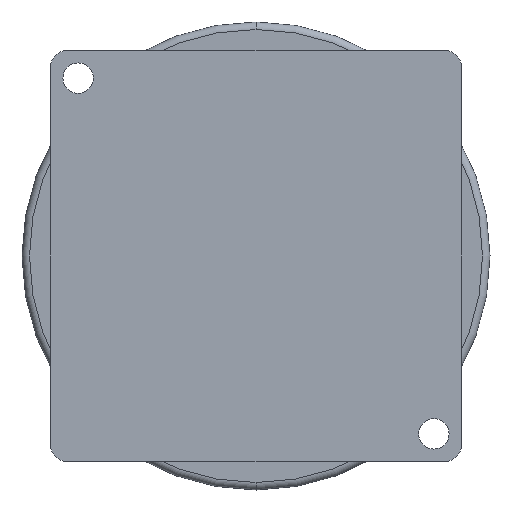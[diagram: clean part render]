
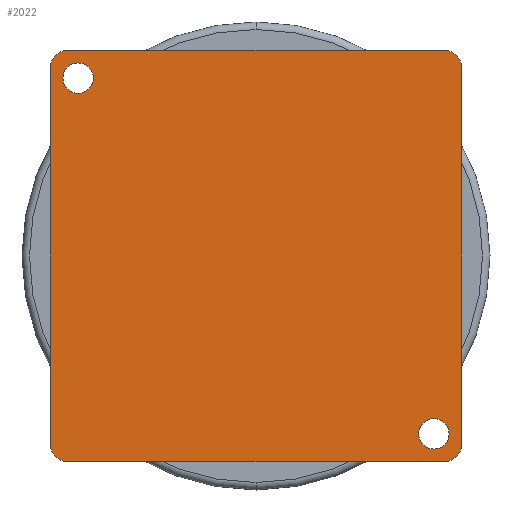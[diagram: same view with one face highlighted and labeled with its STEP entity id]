
A CAD part, front view. The second image highlights one B-rep face of the part: STEP entity #2022.
In plain terms, the highlighted planar face has unit normal (0, -1, 0).
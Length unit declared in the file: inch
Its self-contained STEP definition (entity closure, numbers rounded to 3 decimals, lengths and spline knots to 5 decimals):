
#50 = EDGE_CURVE ( 'Defeatured_0_0+Defeatured_0_17+Defeatured_0_27+Defeatured_0_28', #509, #620, #3667, .T. ) ;
#88 = DIRECTION ( 'NONE',  ( 0., 0., -1. ) ) ;
#111 = CARTESIAN_POINT ( 'NONE',  ( 2.375, -1.305, -2.57812 ) ) ;
#192 = CIRCLE ( 'NONE', #4120, 0.25 ) ;
#303 = FACE_BOUND ( 'NONE', #4639, .T. ) ;
#316 = CARTESIAN_POINT ( 'NONE',  ( 2.75, -1.305, 2.75 ) ) ;
#350 = DIRECTION ( 'NONE',  ( 0., 0., -1. ) ) ;
#381 = ORIENTED_EDGE ( 'NONE', *, *, #1233, .T. ) ;
#397 = DIRECTION ( 'NONE',  ( 0., -1., 0. ) ) ;
#408 = ORIENTED_EDGE ( 'NONE', *, *, #3091, .F. ) ;
#484 = VERTEX_POINT ( 'NONE', #929 ) ;
#499 = LINE ( 'NONE', #1270, #3635 ) ;
#509 = VERTEX_POINT ( 'NONE', #3498 ) ;
#549 = VERTEX_POINT ( 'NONE', #1338 ) ;
#582 = VERTEX_POINT ( 'NONE', #2345 ) ;
#620 = VERTEX_POINT ( 'NONE', #4373 ) ;
#629 = VECTOR ( 'NONE', #1410, 39.37008 ) ;
#633 = EDGE_CURVE ( 'Defeatured_0_9+Defeatured_0_17+Defeatured_0_29+Defeatured_0_27', #2091, #549, #3264, .T. ) ;
#705 = DIRECTION ( 'NONE',  ( 0., 0., -1. ) ) ;
#765 = DIRECTION ( 'NONE',  ( 0., 0., -1. ) ) ;
#884 = DIRECTION ( 'NONE',  ( 0., 0., -1. ) ) ;
#929 = CARTESIAN_POINT ( 'NONE',  ( 2.375, -1.305, -2.17188 ) ) ;
#992 = EDGE_CURVE ( 'Defeatured_0_17+Defeatured_0_27+Defeatured_0_0+Defeatured_0_9', #509, #549, #192, .T. ) ;
#1011 = DIRECTION ( 'NONE',  ( 0., 0., -1. ) ) ;
#1119 = EDGE_CURVE ( 'Defeatured_0_10+Defeatured_0_17+Defeatured_0_28+Defeatured_0_30', #582, #1677, #499, .T. ) ;
#1147 = CARTESIAN_POINT ( 'NONE',  ( -2.75, -1.305, -2.75 ) ) ;
#1173 = CIRCLE ( 'NONE', #2725, 0.25 ) ;
#1229 = DIRECTION ( 'NONE',  ( 0., -1., 0. ) ) ;
#1233 = EDGE_CURVE ( 'Defeatured_0_17+Defeatured_0_29+Defeatured_0_9+Defeatured_0_18', #2091, #3084, #1173, .T. ) ;
#1257 = VERTEX_POINT ( 'NONE', #111 ) ;
#1270 = CARTESIAN_POINT ( 'NONE',  ( -2.75, -1.305, 2.75 ) ) ;
#1276 = AXIS2_PLACEMENT_3D ( 'NONE', #3673, #1487, #4109 ) ;
#1281 = ORIENTED_EDGE ( 'NONE', *, *, #992, .T. ) ;
#1291 = ORIENTED_EDGE ( 'NONE', *, *, #1119, .F. ) ;
#1338 = CARTESIAN_POINT ( 'NONE',  ( 2.75, -1.305, -2.5 ) ) ;
#1342 = LINE ( 'NONE', #2861, #2126 ) ;
#1390 = DIRECTION ( 'NONE',  ( 1., 0., 0. ) ) ;
#1410 = DIRECTION ( 'NONE',  ( -1., 0., 0. ) ) ;
#1487 = DIRECTION ( 'NONE',  ( 0., -1., 0. ) ) ;
#1665 = AXIS2_PLACEMENT_3D ( 'NONE', #2690, #1229, #884 ) ;
#1677 = VERTEX_POINT ( 'NONE', #3676 ) ;
#1871 = DIRECTION ( 'NONE',  ( 0., -1., 0. ) ) ;
#1900 = DIRECTION ( 'NONE',  ( 0., 0., -1. ) ) ;
#1957 = ORIENTED_EDGE ( 'NONE', *, *, #4074, .T. ) ;
#2005 = ORIENTED_EDGE ( 'NONE', *, *, #50, .F. ) ;
#2014 = ORIENTED_EDGE ( 'NONE', *, *, #3566, .F. ) ;
#2022 = ADVANCED_FACE ( 'Defeatured_0_17', ( #303, #2558, #2938 ), #4828, .T. ) ;
#2091 = VERTEX_POINT ( 'NONE', #4150 ) ;
#2126 = VECTOR ( 'NONE', #1390, 39.37008 ) ;
#2207 = CARTESIAN_POINT ( 'NONE',  ( 0., -1.305, 0. ) ) ;
#2242 = VERTEX_POINT ( 'NONE', #2787 ) ;
#2324 = CARTESIAN_POINT ( 'NONE',  ( -2.375, -1.305, 2.375 ) ) ;
#2345 = CARTESIAN_POINT ( 'NONE',  ( -2.75, -1.305, -2.5 ) ) ;
#2363 = AXIS2_PLACEMENT_3D ( 'NONE', #3717, #1871, #765 ) ;
#2422 = EDGE_LOOP ( 'NONE', ( #2005, #1281, #4266, #381, #3755, #2835, #1291, #1957 ) ) ;
#2527 = AXIS2_PLACEMENT_3D ( 'NONE', #4101, #4822, #1900 ) ;
#2558 = FACE_BOUND ( 'NONE', #4654, .T. ) ;
#2598 = AXIS2_PLACEMENT_3D ( 'NONE', #4378, #4682, #1011 ) ;
#2690 = CARTESIAN_POINT ( 'NONE',  ( -2.5, -1.305, 2.5 ) ) ;
#2709 = AXIS2_PLACEMENT_3D ( 'NONE', #2207, #3699, #350 ) ;
#2725 = AXIS2_PLACEMENT_3D ( 'NONE', #3007, #4024, #3422 ) ;
#2787 = CARTESIAN_POINT ( 'NONE',  ( -2.375, -1.305, 2.57813 ) ) ;
#2835 = ORIENTED_EDGE ( 'NONE', *, *, #4620, .T. ) ;
#2861 = CARTESIAN_POINT ( 'NONE',  ( -2.75, -1.305, 2.75 ) ) ;
#2938 = FACE_OUTER_BOUND ( 'NONE', #2422, .T. ) ;
#3007 = CARTESIAN_POINT ( 'NONE',  ( 2.5, -1.305, 2.5 ) ) ;
#3014 = CARTESIAN_POINT ( 'NONE',  ( 2.5, -1.305, 2.75 ) ) ;
#3084 = VERTEX_POINT ( 'NONE', #3014 ) ;
#3091 = EDGE_CURVE ( 'Defeatured_0_49+Defeatured_0_17+Defeatured_0_17+Defeatured_0_17', #2242, #3278, #3125, .T. ) ;
#3125 = CIRCLE ( 'NONE', #1276, 0.20313 ) ;
#3264 = LINE ( 'NONE', #316, #3893 ) ;
#3278 = VERTEX_POINT ( 'NONE', #3779 ) ;
#3372 = CIRCLE ( 'NONE', #2527, 0.25 ) ;
#3382 = CIRCLE ( 'NONE', #1665, 0.25 ) ;
#3405 = DIRECTION ( 'NONE',  ( 0., 0., 1. ) ) ;
#3421 = EDGE_CURVE ( 'Defeatured_0_18+Defeatured_0_17+Defeatured_0_30+Defeatured_0_29', #4236, #3084, #1342, .T. ) ;
#3422 = DIRECTION ( 'NONE',  ( 0., 0., -1. ) ) ;
#3457 = AXIS2_PLACEMENT_3D ( 'NONE', #2324, #3828, #88 ) ;
#3498 = CARTESIAN_POINT ( 'NONE',  ( 2.5, -1.305, -2.75 ) ) ;
#3515 = CARTESIAN_POINT ( 'NONE',  ( -2.5, -1.305, 2.75 ) ) ;
#3566 = EDGE_CURVE ( 'Defeatured_0_48+Defeatured_0_17+Defeatured_0_17+Defeatured_0_17', #484, #1257, #4087, .T. ) ;
#3635 = VECTOR ( 'NONE', #3405, 39.37008 ) ;
#3667 = LINE ( 'NONE', #1147, #629 ) ;
#3673 = CARTESIAN_POINT ( 'NONE',  ( -2.375, -1.305, 2.375 ) ) ;
#3676 = CARTESIAN_POINT ( 'NONE',  ( -2.75, -1.305, 2.5 ) ) ;
#3699 = DIRECTION ( 'NONE',  ( 0., -1., 0. ) ) ;
#3717 = CARTESIAN_POINT ( 'NONE',  ( 2.375, -1.305, -2.375 ) ) ;
#3743 = DIRECTION ( 'NONE',  ( 0., 0., -1. ) ) ;
#3755 = ORIENTED_EDGE ( 'NONE', *, *, #3421, .F. ) ;
#3779 = CARTESIAN_POINT ( 'NONE',  ( -2.375, -1.305, 2.17188 ) ) ;
#3828 = DIRECTION ( 'NONE',  ( 0., -1., 0. ) ) ;
#3893 = VECTOR ( 'NONE', #3743, 39.37008 ) ;
#3940 = EDGE_CURVE ( 'Defeatured_0_49+Defeatured_0_17+Defeatured_0_17+Defeatured_0_17', #3278, #2242, #4576, .T. ) ;
#3970 = ORIENTED_EDGE ( 'NONE', *, *, #3940, .F. ) ;
#4024 = DIRECTION ( 'NONE',  ( 0., -1., 0. ) ) ;
#4074 = EDGE_CURVE ( 'Defeatured_0_17+Defeatured_0_28+Defeatured_0_10+Defeatured_0_0', #582, #620, #3372, .T. ) ;
#4087 = CIRCLE ( 'NONE', #2598, 0.20312 ) ;
#4093 = CIRCLE ( 'NONE', #2363, 0.20312 ) ;
#4101 = CARTESIAN_POINT ( 'NONE',  ( -2.5, -1.305, -2.5 ) ) ;
#4108 = CARTESIAN_POINT ( 'NONE',  ( 2.5, -1.305, -2.5 ) ) ;
#4109 = DIRECTION ( 'NONE',  ( 0., 0., -1. ) ) ;
#4120 = AXIS2_PLACEMENT_3D ( 'NONE', #4108, #397, #705 ) ;
#4150 = CARTESIAN_POINT ( 'NONE',  ( 2.75, -1.305, 2.5 ) ) ;
#4236 = VERTEX_POINT ( 'NONE', #3515 ) ;
#4266 = ORIENTED_EDGE ( 'NONE', *, *, #633, .F. ) ;
#4315 = EDGE_CURVE ( 'Defeatured_0_48+Defeatured_0_17+Defeatured_0_17+Defeatured_0_17', #1257, #484, #4093, .T. ) ;
#4373 = CARTESIAN_POINT ( 'NONE',  ( -2.5, -1.305, -2.75 ) ) ;
#4378 = CARTESIAN_POINT ( 'NONE',  ( 2.375, -1.305, -2.375 ) ) ;
#4576 = CIRCLE ( 'NONE', #3457, 0.20313 ) ;
#4620 = EDGE_CURVE ( 'Defeatured_0_17+Defeatured_0_30+Defeatured_0_18+Defeatured_0_10', #4236, #1677, #3382, .T. ) ;
#4639 = EDGE_LOOP ( 'NONE', ( #4775, #2014 ) ) ;
#4654 = EDGE_LOOP ( 'NONE', ( #3970, #408 ) ) ;
#4682 = DIRECTION ( 'NONE',  ( 0., -1., 0. ) ) ;
#4775 = ORIENTED_EDGE ( 'NONE', *, *, #4315, .F. ) ;
#4822 = DIRECTION ( 'NONE',  ( 0., -1., 0. ) ) ;
#4828 = PLANE ( 'NONE',  #2709 ) ;
